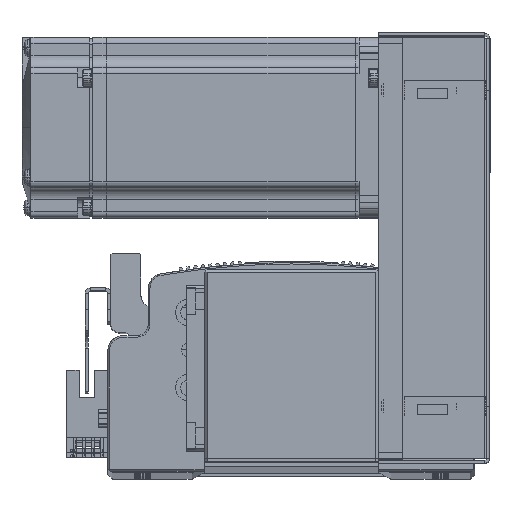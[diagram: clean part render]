
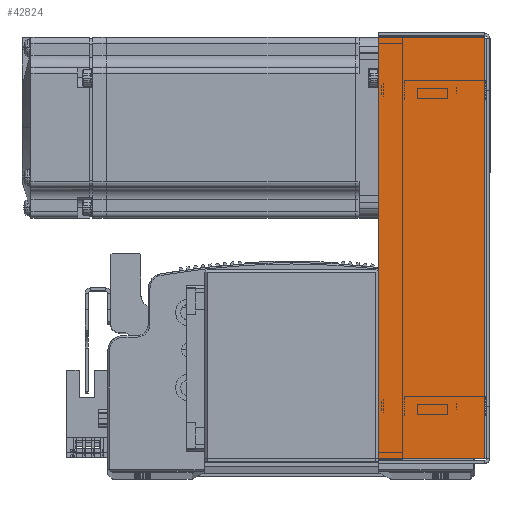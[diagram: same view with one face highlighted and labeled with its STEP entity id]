
A CAD part, top view. The second image highlights one B-rep face of the part: STEP entity #42824.
In plain terms, the highlighted planar face has unit normal (0, 0, 1) as drawn and (0, 0, -1) by its records, which use the part's own axes.
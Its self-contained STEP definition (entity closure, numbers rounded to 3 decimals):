
#136 = VERTEX_POINT ( 'NONE', #15414 ) ;
#144 = VERTEX_POINT ( 'NONE', #15463 ) ;
#146 = VERTEX_POINT ( 'NONE', #15486 ) ;
#179 = VERTEX_POINT ( 'NONE', #15503 ) ;
#9098 = EDGE_CURVE ( 'NONE', #136, #179, #35966, .T. ) ;
#9118 = EDGE_CURVE ( 'NONE', #146, #144, #34830, .T. ) ;
#9138 = EDGE_CURVE ( 'NONE', #146, #136, #33721, .T. ) ;
#9197 = EDGE_CURVE ( 'NONE', #144, #179, #31432, .T. ) ;
#15414 = CARTESIAN_POINT ( 'NONE',  ( -69.793, 36., -33.5 ) ) ;
#15463 = CARTESIAN_POINT ( 'NONE',  ( 69.793, 0.737, -33.5 ) ) ;
#15486 = CARTESIAN_POINT ( 'NONE',  ( -69.793, 0.737, -33.5 ) ) ;
#15503 = CARTESIAN_POINT ( 'NONE',  ( 69.793, 36., -33.5 ) ) ;
#27051 = FACE_OUTER_BOUND ( 'NONE', #95415, .T. ) ;
#31432 = LINE ( 'NONE', #65607, #31440 ) ;
#31440 = VECTOR ( 'NONE', #65612, 1000. ) ;
#33721 = LINE ( 'NONE', #65869, #35392 ) ;
#34830 = LINE ( 'NONE', #65833, #34935 ) ;
#34935 = VECTOR ( 'NONE', #65813, 1000. ) ;
#35392 = VECTOR ( 'NONE', #65855, 1000. ) ;
#35930 = VECTOR ( 'NONE', #65815, 1000. ) ;
#35966 = LINE ( 'NONE', #65818, #35930 ) ;
#42824 = ADVANCED_FACE ( 'NONE', ( #27051 ), #70444, .F. ) ;
#65607 = CARTESIAN_POINT ( 'NONE',  ( 69.793, 0., -33.5 ) ) ;
#65612 = DIRECTION ( 'NONE',  ( 0., 1., 0. ) ) ;
#65813 = DIRECTION ( 'NONE',  ( 1., 0., 0. ) ) ;
#65815 = DIRECTION ( 'NONE',  ( 1., 0., 0. ) ) ;
#65818 = CARTESIAN_POINT ( 'NONE',  ( 0., 36., -33.5 ) ) ;
#65833 = CARTESIAN_POINT ( 'NONE',  ( 71.5, 0.737, -33.5 ) ) ;
#65855 = DIRECTION ( 'NONE',  ( 0., 1., 0. ) ) ;
#65869 = CARTESIAN_POINT ( 'NONE',  ( -69.793, 0., -33.5 ) ) ;
#70444 = PLANE ( 'NONE',  #80810 ) ;
#70508 = DIRECTION ( 'NONE',  ( 0., -1., 0. ) ) ;
#70541 = DIRECTION ( 'NONE',  ( 0., 0., 1. ) ) ;
#70560 = CARTESIAN_POINT ( 'NONE',  ( 0., 0., -33.5 ) ) ;
#80810 = AXIS2_PLACEMENT_3D ( 'NONE', #70560, #70541, #70508 ) ;
#88145 = ORIENTED_EDGE ( 'NONE', *, *, #9197, .F. ) ;
#88231 = ORIENTED_EDGE ( 'NONE', *, *, #9098, .T. ) ;
#88234 = ORIENTED_EDGE ( 'NONE', *, *, #9138, .T. ) ;
#88250 = ORIENTED_EDGE ( 'NONE', *, *, #9118, .F. ) ;
#95415 = EDGE_LOOP ( 'NONE', ( #88250, #88234, #88231, #88145 ) ) ;
